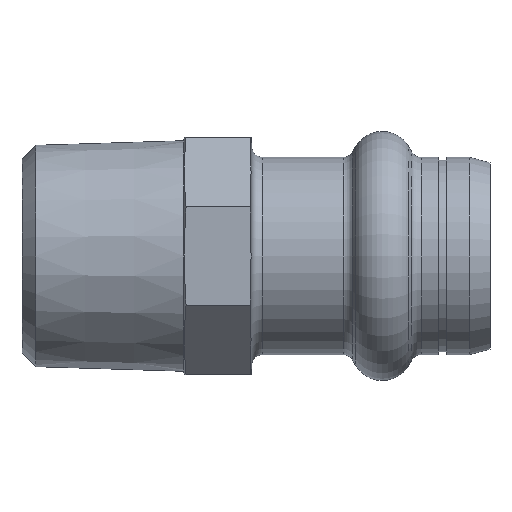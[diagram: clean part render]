
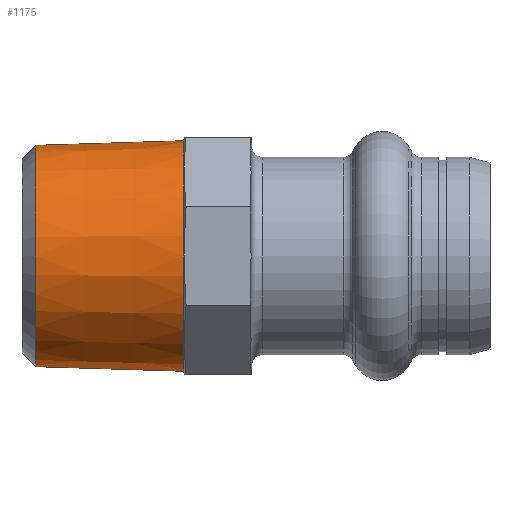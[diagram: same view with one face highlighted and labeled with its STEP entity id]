
A CAD part, left-side view. The second image highlights one B-rep face of the part: STEP entity #1175.
In plain terms, the highlighted conical face has half-angle 1.78 degrees and reference radius 10.689 mm.
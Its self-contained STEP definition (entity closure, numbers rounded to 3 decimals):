
#33 = DIRECTION ( 'NONE',  ( 0., 0., -1. ) ) ;
#79 = CARTESIAN_POINT ( 'NONE',  ( 0., 42.138, 10.262 ) ) ;
#81 = VECTOR ( 'NONE', #1494, 1000. ) ;
#95 = ORIENTED_EDGE ( 'NONE', *, *, #1693, .T. ) ;
#176 = VERTEX_POINT ( 'NONE', #79 ) ;
#181 = AXIS2_PLACEMENT_3D ( 'NONE', #1516, #674, #1654 ) ;
#249 = CARTESIAN_POINT ( 'NONE',  ( 0., 42.138, 0. ) ) ;
#285 = EDGE_CURVE ( 'NONE', #176, #1641, #1714, .T. ) ;
#290 = EDGE_CURVE ( 'NONE', #681, #1432, #879, .T. ) ;
#371 = ORIENTED_EDGE ( 'NONE', *, *, #290, .F. ) ;
#387 = DIRECTION ( 'NONE',  ( 0., 0., -1. ) ) ;
#398 = VECTOR ( 'NONE', #967, 1000. ) ;
#440 = FACE_OUTER_BOUND ( 'NONE', #579, .T. ) ;
#579 = EDGE_LOOP ( 'NONE', ( #1612, #1499, #95, #371 ) ) ;
#604 = DIRECTION ( 'NONE',  ( 0., -1., 0. ) ) ;
#674 = DIRECTION ( 'NONE',  ( 0., -1., 0. ) ) ;
#681 = VERTEX_POINT ( 'NONE', #834 ) ;
#755 = EDGE_CURVE ( 'NONE', #176, #681, #1530, .T. ) ;
#774 = CONICAL_SURFACE ( 'NONE', #1331, 10.689, 0.031 ) ;
#825 = LINE ( 'NONE', #925, #81 ) ;
#834 = CARTESIAN_POINT ( 'NONE',  ( 0., 28.4, 10.689 ) ) ;
#879 = CIRCLE ( 'NONE', #181, 10.689 ) ;
#925 = CARTESIAN_POINT ( 'NONE',  ( 0., 28.4, -10.689 ) ) ;
#967 = DIRECTION ( 'NONE',  ( 0., -1., 0.031 ) ) ;
#1167 = CARTESIAN_POINT ( 'NONE',  ( 0., 28.4, 0. ) ) ;
#1175 = ADVANCED_FACE ( 'NONE', ( #440 ), #774, .T. ) ;
#1233 = DIRECTION ( 'NONE',  ( 0., -1., 0. ) ) ;
#1331 = AXIS2_PLACEMENT_3D ( 'NONE', #1167, #604, #33 ) ;
#1432 = VERTEX_POINT ( 'NONE', #1549 ) ;
#1494 = DIRECTION ( 'NONE',  ( 0., -1., -0.031 ) ) ;
#1499 = ORIENTED_EDGE ( 'NONE', *, *, #285, .T. ) ;
#1516 = CARTESIAN_POINT ( 'NONE',  ( 0., 28.4, 0. ) ) ;
#1530 = LINE ( 'NONE', #1537, #398 ) ;
#1537 = CARTESIAN_POINT ( 'NONE',  ( 0., 28.4, 10.689 ) ) ;
#1549 = CARTESIAN_POINT ( 'NONE',  ( 0., 28.4, -10.689 ) ) ;
#1612 = ORIENTED_EDGE ( 'NONE', *, *, #755, .F. ) ;
#1641 = VERTEX_POINT ( 'NONE', #1644 ) ;
#1644 = CARTESIAN_POINT ( 'NONE',  ( 0., 42.138, -10.262 ) ) ;
#1654 = DIRECTION ( 'NONE',  ( 0., 0., -1. ) ) ;
#1693 = EDGE_CURVE ( 'NONE', #1641, #1432, #825, .T. ) ;
#1714 = CIRCLE ( 'NONE', #1786, 10.262 ) ;
#1786 = AXIS2_PLACEMENT_3D ( 'NONE', #249, #1233, #387 ) ;
